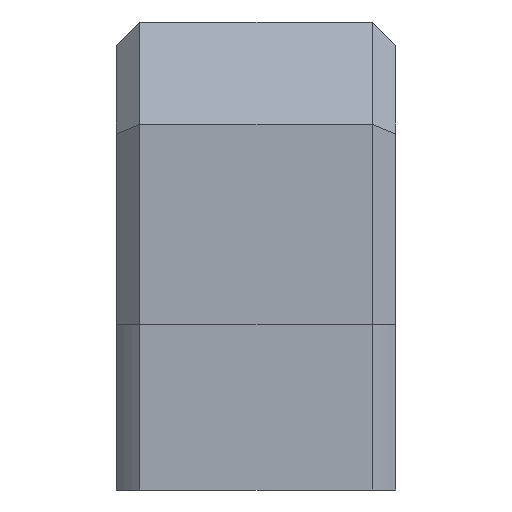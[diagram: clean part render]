
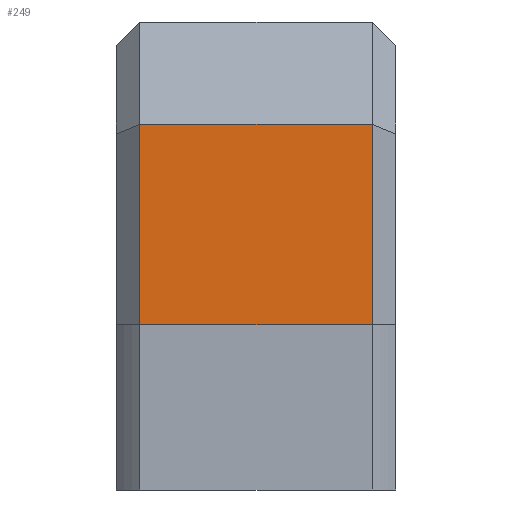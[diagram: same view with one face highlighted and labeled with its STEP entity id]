
A CAD part, front view. The second image highlights one B-rep face of the part: STEP entity #249.
In plain terms, the highlighted planar face has unit normal (0, -1, 0).
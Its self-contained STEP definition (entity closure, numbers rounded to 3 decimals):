
#249 = ADVANCED_FACE ( 'NONE', ( #15802 ), #16720, .F. ) ;
#1472 = CARTESIAN_POINT ( 'NONE',  ( -25., -35.75, -35. ) ) ;
#2254 = ORIENTED_EDGE ( 'NONE', *, *, #17886, .T. ) ;
#2596 = CARTESIAN_POINT ( 'NONE',  ( 30., -35.75, -35. ) ) ;
#2788 = DIRECTION ( 'NONE',  ( -1., 0., 0. ) ) ;
#3092 = ORIENTED_EDGE ( 'NONE', *, *, #11270, .T. ) ;
#3165 = LINE ( 'NONE', #2596, #18667 ) ;
#3326 = LINE ( 'NONE', #12040, #16258 ) ;
#3982 = EDGE_CURVE ( 'NONE', #13067, #18405, #3326, .T. ) ;
#3996 = LINE ( 'NONE', #10260, #7942 ) ;
#4110 = DIRECTION ( 'NONE',  ( -1., 0., 0. ) ) ;
#5976 = DIRECTION ( 'NONE',  ( 0., 0., 1. ) ) ;
#6185 = DIRECTION ( 'NONE',  ( 0., 1., 0. ) ) ;
#6269 = VECTOR ( 'NONE', #2788, 1000. ) ;
#6489 = CARTESIAN_POINT ( 'NONE',  ( -25., -35.75, 8. ) ) ;
#7058 = EDGE_LOOP ( 'NONE', ( #3092, #2254, #15008, #10291 ) ) ;
#7942 = VECTOR ( 'NONE', #11790, 1000. ) ;
#8353 = VERTEX_POINT ( 'NONE', #1472 ) ;
#10234 = CARTESIAN_POINT ( 'NONE',  ( 25., -35.75, 8. ) ) ;
#10260 = CARTESIAN_POINT ( 'NONE',  ( -25., -35.75, 30. ) ) ;
#10291 = ORIENTED_EDGE ( 'NONE', *, *, #3982, .T. ) ;
#11270 = EDGE_CURVE ( 'NONE', #18405, #12866, #14292, .T. ) ;
#11790 = DIRECTION ( 'NONE',  ( 0., 0., -1. ) ) ;
#12040 = CARTESIAN_POINT ( 'NONE',  ( 25., -35.75, 8. ) ) ;
#12866 = VERTEX_POINT ( 'NONE', #6489 ) ;
#13067 = VERTEX_POINT ( 'NONE', #19161 ) ;
#13352 = CARTESIAN_POINT ( 'NONE',  ( 30., -35.75, 8. ) ) ;
#14292 = LINE ( 'NONE', #13352, #6269 ) ;
#14645 = EDGE_CURVE ( 'NONE', #13067, #8353, #3165, .T. ) ;
#15008 = ORIENTED_EDGE ( 'NONE', *, *, #14645, .F. ) ;
#15201 = DIRECTION ( 'NONE',  ( 0., 0., 1. ) ) ;
#15802 = FACE_OUTER_BOUND ( 'NONE', #7058, .T. ) ;
#16258 = VECTOR ( 'NONE', #5976, 1000. ) ;
#16720 = PLANE ( 'NONE',  #17576 ) ;
#17576 = AXIS2_PLACEMENT_3D ( 'NONE', #18223, #6185, #15201 ) ;
#17886 = EDGE_CURVE ( 'NONE', #12866, #8353, #3996, .T. ) ;
#18223 = CARTESIAN_POINT ( 'NONE',  ( 30., -35.75, 30. ) ) ;
#18405 = VERTEX_POINT ( 'NONE', #10234 ) ;
#18667 = VECTOR ( 'NONE', #4110, 1000. ) ;
#19161 = CARTESIAN_POINT ( 'NONE',  ( 25., -35.75, -35. ) ) ;
